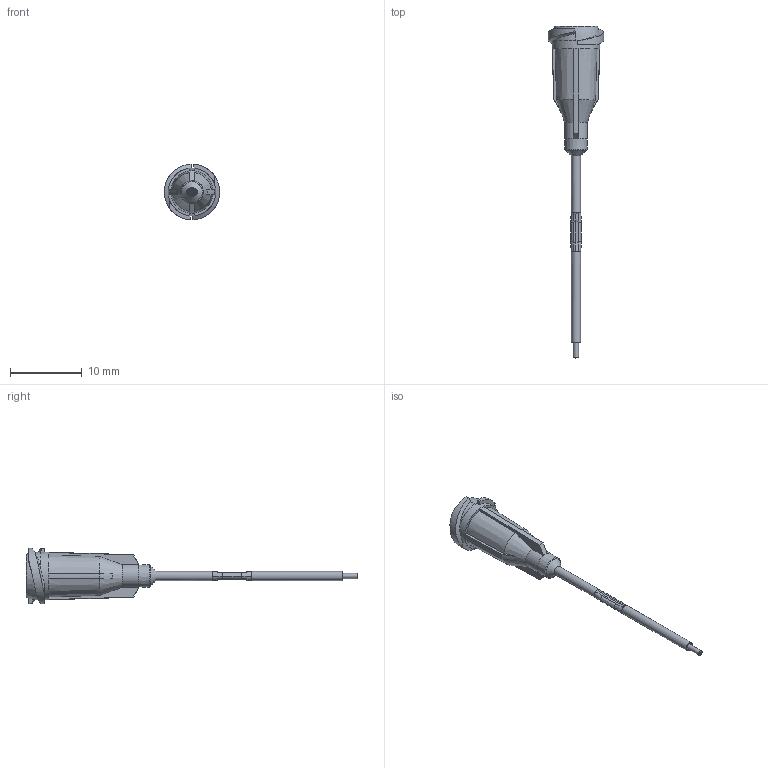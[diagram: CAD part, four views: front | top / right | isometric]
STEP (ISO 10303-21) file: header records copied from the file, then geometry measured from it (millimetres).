
FILE_DESCRIPTION (( 'STEP AP214' ), '1' );
FILE_NAME ('DAV PTFE 25-1.5.STEP', '2023-09-28T12:43:03', ( '' ), ( '' ), 'SwSTEP 2.0', 'SolidWorks 2022', '' );
FILE_SCHEMA (( 'AUTOMOTIVE_DESIGN' ));
Length unit declared in the file: millimetre
Products named in the file (1): DAV PTFE 25-1.5
Bounding box: 7.76 x 46.43 x 7.77 mm (x, y, z)
Volume: 282.9 mm3; surface area: 845.6 mm2
Topology: 1 solids, 1 shells, 136 faces, 363 edges, 228 vertices
Faces by surface type: bspline 58, plane 35, cone 18, cylinder 16, torus 9
Full cylindrical faces by diameter (mm): 0.305 x1, 0.711 x1, 1.016 x2, 1.27 x3, 2.87 x1, 6.655 x1
Entity records: 13524 total; most frequent: CARTESIAN_POINT 10811, ORIENTED_EDGE 656, DIRECTION 358, EDGE_CURVE 328, VERTEX_POINT 216, B_SPLINE_CURVE_WITH_KNOTS 182, EDGE_LOOP 164, FACE_OUTER_BOUND 149
